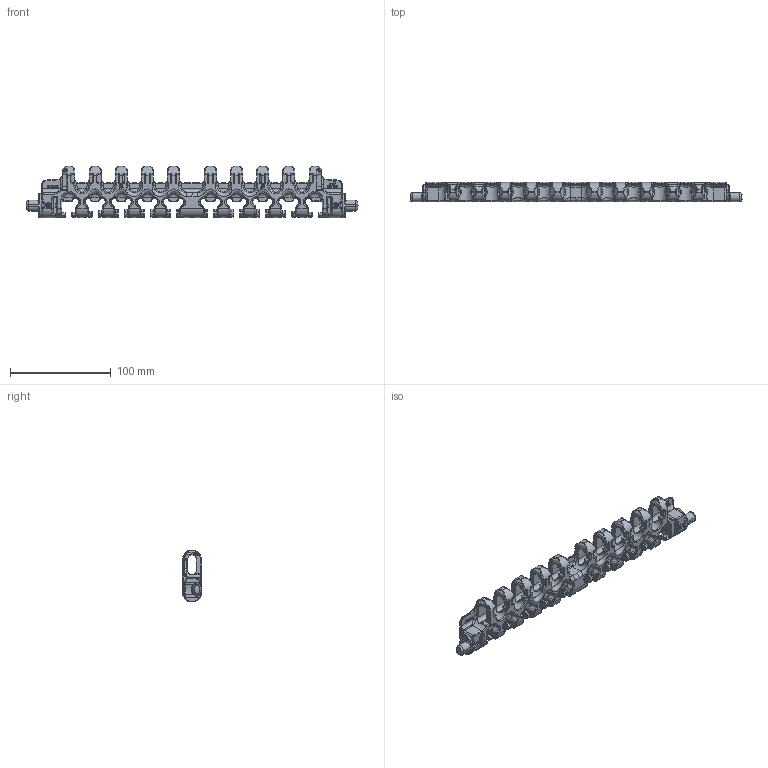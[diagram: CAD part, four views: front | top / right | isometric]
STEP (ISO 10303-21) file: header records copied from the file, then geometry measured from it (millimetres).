
FILE_DESCRIPTION((''),'2;1');
FILE_NAME('FLEX_ONE_WEARPART_EOO_K1200_ASM','2011-12-12T',('mth'),(''),'PRO/ENGINEER BY PARAMETRIC TECHNOLOGY CORPORATION, 2010280','PRO/ENGINEER BY PARAMETRIC TECHNOLOGY CORPORATION, 2010280','');
FILE_SCHEMA(('CONFIG_CONTROL_DESIGN','SHAPE_APPEARANCE_LAYERS_GROUPS'));
Products named in the file (3): P974; P995; FLEX_ONE_WEARPART_EOO_K1200_ASM
Assembly tree (3 placements, depth 2):
  FLEX_ONE_WEARPART_EOO_K1200_ASM
    P974
    P995  x2
Bounding box: 330.18 x 19.05 x 51 mm (x, y, z)
Volume: 111104.8 mm3; surface area: 53278.3 mm2
Topology: 3 solids, 3 shells, 4300 faces, 10773 edges, 6528 vertices
Faces by surface type: plane 1571, cylinder 1191, bspline 836, torus 634, sphere 64, extrusion 4
Entity records: 211005 total; most frequent: CARTESIAN_POINT 93797, ORIENTED_EDGE 19344, DIRECTION 17611, PRESENTATION_STYLE_ASSIGNMENT 9674, STYLED_ITEM 9674, CURVE_STYLE 9672, EDGE_CURVE 9672, AXIS2_PLACEMENT_3D 6516
